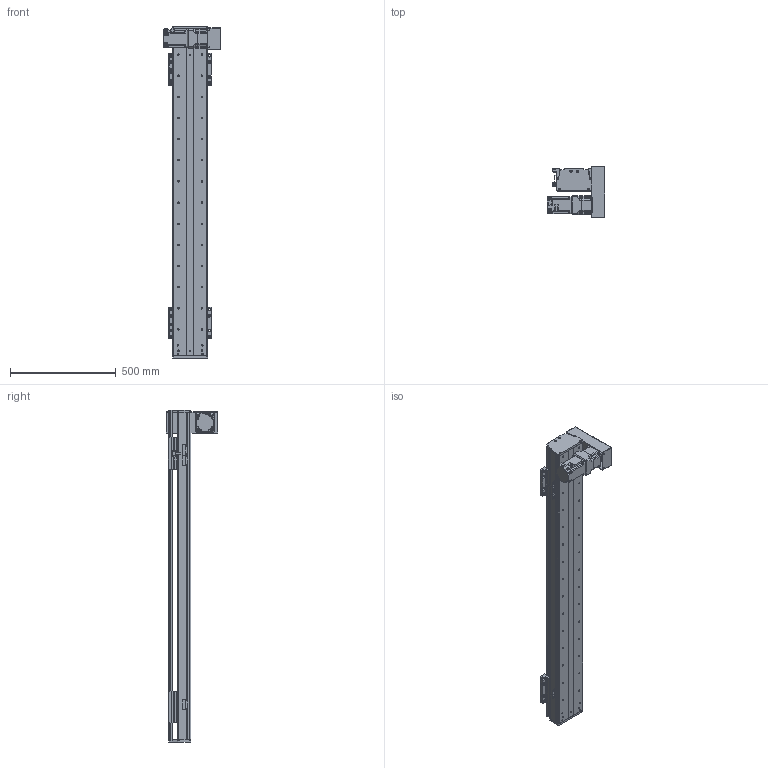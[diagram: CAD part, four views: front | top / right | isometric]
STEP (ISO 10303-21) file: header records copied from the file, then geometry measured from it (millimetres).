
FILE_DESCRIPTION(/* description */ (''),/* implementation_level */ '2;1');
FILE_NAME(/* name */ 'C:\Users\PC\Desktop\3D도면\STEP\새 폴더\DSB165-DR7G-W1200-L.stp',/* time_stamp */ '2018-06-25T15:58:49+09:00',/* author */ ('PC'),/* organization */ (''),/* preprocessor_version */ 'ST-DEVELOPER v16.5',/* originating_system */ 'Autodesk Inventor 2017',/* authorisation */ '');
FILE_SCHEMA (('AUTOMOTIVE_DESIGN { 1 0 10303 214 3 1 1 }'));
Length unit declared in the file: millimetre
Products named in the file (12): DSB165-DL7G-W1200-R_MIR; DSB165-BASE-L_MIR; hg-kr73__MIR; ab0901-p0401300102_MIR; 11-DSB165 BELT COVER_MIR; 12-DSB165-REAR COVER_MIR; 14-DSB165-FRONT COVER_MIR; DSB165-UP COVER_MIR; DSB165-TABLE(MSB20S)_MIR; DSR165-SENSOR DOG_MIR; SENSOR BRACKET(EE-SX674A)_MIR; pm-y65_step_MIR
Assembly tree (16 placements, depth 2):
  DSB165-DL7G-W1200-R_MIR
    DSB165-BASE-L_MIR
    hg-kr73__MIR
    ab0901-p0401300102_MIR
    11-DSB165 BELT COVER_MIR
    12-DSB165-REAR COVER_MIR
    14-DSB165-FRONT COVER_MIR
    DSB165-UP COVER_MIR
    DSB165-TABLE(MSB20S)_MIR  x2
    DSR165-SENSOR DOG_MIR
    pm-y65_step_MIR  x3
    SENSOR BRACKET(EE-SX674A)_MIR  x3
Bounding box: 270 x 242 x 1570 mm (x, y, z)
Volume: 9782332.8 mm3; surface area: 2270133.1 mm2
Topology: 17 solids, 17 shells, 1673 faces, 4494 edges, 2960 vertices
Faces by surface type: plane 921, cylinder 622, cone 118, sphere 8, torus 4
Full cylindrical faces by diameter (mm): 2.459 x20, 3.5 x6, 4.134 x42, 4.5 x18, 5 x27, 5.5 x36, 5.9 x4, 6 x4, 6.6 x14, 6.647 x46, 6.8 x1, 7 x4, 7.6 x4, 8.4 x1, 8.5 x24, 8.7 x1, 9.5 x32, 11 x6, 14 x16, 19 x1, 22 x1, 24 x1, 25 x1, 28 x1, 67 x1, 70 x2, 80 x1
Entity records: 36256 total; most frequent: DIRECTION 6282, CARTESIAN_POINT 6087, ORIENTED_EDGE 5546, EDGE_CURVE 2773, AXIS2_PLACEMENT_3D 2311, VERTEX_POINT 1978, EDGE_LOOP 1743, LINE 1660
